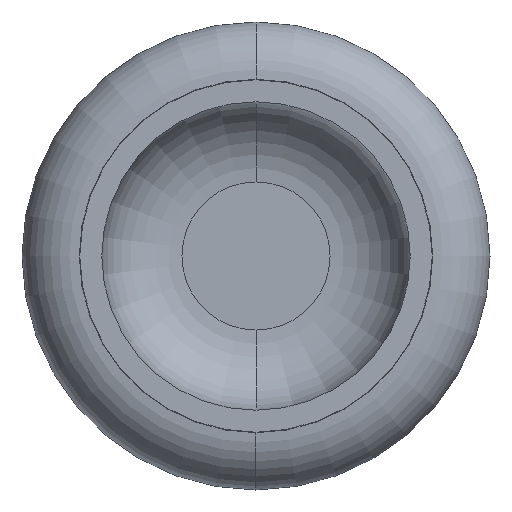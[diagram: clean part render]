
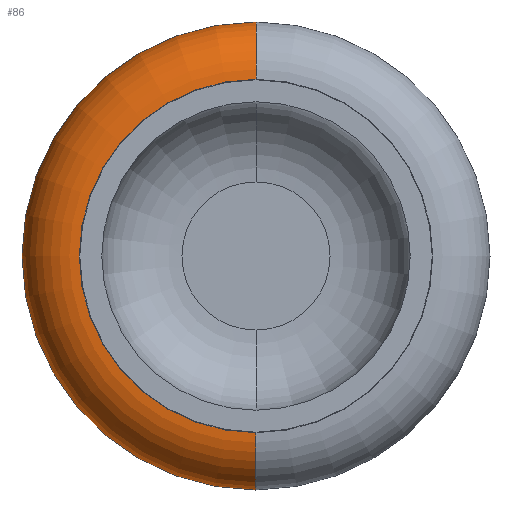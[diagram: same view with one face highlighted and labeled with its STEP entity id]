
A CAD part, left-side view. The second image highlights one B-rep face of the part: STEP entity #86.
In plain terms, the highlighted toroidal (fillet/blend) face has major radius 9.25 mm and minor radius 3 mm.
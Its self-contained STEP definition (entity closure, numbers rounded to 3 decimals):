
#86=ADVANCED_FACE('',(#199),#200,.T.);
#199=FACE_OUTER_BOUND('',#345,.T.);
#200=TOROIDAL_SURFACE('',#346,9.25,3.);
#345=EDGE_LOOP('',(#530,#531,#532,#533));
#346=AXIS2_PLACEMENT_3D('',#534,#535,#536);
#530=ORIENTED_EDGE('',*,*,#828,.T.);
#531=ORIENTED_EDGE('',*,*,#836,.F.);
#532=ORIENTED_EDGE('',*,*,#837,.F.);
#533=ORIENTED_EDGE('',*,*,#838,.F.);
#534=CARTESIAN_POINT('',(8.,0.0,0.));
#535=DIRECTION('',(-1.0,0.0,0.));
#536=DIRECTION('',(0.,0.0,1.0));
#828=EDGE_CURVE('',#928,#927,#972,.T.);
#836=EDGE_CURVE('',#984,#927,#985,.T.);
#837=EDGE_CURVE('',#986,#984,#987,.T.);
#838=EDGE_CURVE('',#928,#986,#988,.T.);
#927=VERTEX_POINT('',#1107);
#928=VERTEX_POINT('',#1108);
#972=CIRCLE('',#1152,12.25);
#984=VERTEX_POINT('',#1166);
#985=CIRCLE('',#1167,3.);
#986=VERTEX_POINT('',#1168);
#987=CIRCLE('',#1169,9.25);
#988=CIRCLE('',#1170,3.);
#1107=CARTESIAN_POINT('',(8.,0.,-12.25));
#1108=CARTESIAN_POINT('',(8.,0.,12.25));
#1152=AXIS2_PLACEMENT_3D('',#1364,#1365,#1366);
#1166=CARTESIAN_POINT('',(5.,0.,-9.25));
#1167=AXIS2_PLACEMENT_3D('',#1378,#1379,#1380);
#1168=CARTESIAN_POINT('',(5.,0.,9.25));
#1169=AXIS2_PLACEMENT_3D('',#1381,#1382,#1383);
#1170=AXIS2_PLACEMENT_3D('',#1384,#1385,#1386);
#1364=CARTESIAN_POINT('',(8.,0.0,0.));
#1365=DIRECTION('',(-1.0,0.0,0.));
#1366=DIRECTION('',(0.,0.0,1.0));
#1378=CARTESIAN_POINT('',(8.,0.,-9.25));
#1379=DIRECTION('',(0.,-1.0,0.));
#1380=DIRECTION('',(0.,0.,-1.0));
#1381=CARTESIAN_POINT('',(5.,0.0,0.));
#1382=DIRECTION('',(-1.0,0.0,0.));
#1383=DIRECTION('',(0.,0.0,-1.0));
#1384=CARTESIAN_POINT('',(8.,0.,9.25));
#1385=DIRECTION('',(0.,-1.0,0.));
#1386=DIRECTION('',(0.,0.,1.0));
